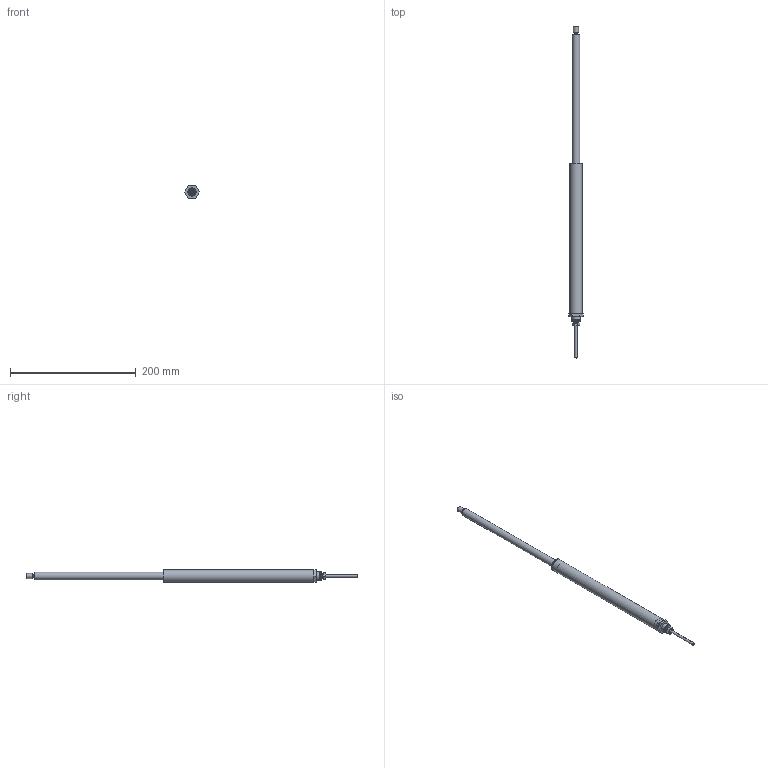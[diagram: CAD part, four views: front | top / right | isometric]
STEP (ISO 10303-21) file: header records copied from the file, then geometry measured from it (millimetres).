
FILE_DESCRIPTION(/* description */ ('Unknown'),/* implementation_level */ '2;1');
FILE_NAME(/* name */ '109.50132 Zylinder CG 1820_ausgefahren',/* time_stamp */ '2018-06-15T15:18:39+02:00',/* author */ ('Unknown'),/* organization */ ('Unknown'),/* preprocessor_version */ 'ST-DEVELOPER v16.7',/* originating_system */ 'DEX',/* authorisation */ $);
FILE_SCHEMA (('AUTOMOTIVE_DESIGN {1 0 10303 214 3 1 1}'));
Length unit declared in the file: millimetre
Products named in the file (9): 109.50132; 121.50002; 142.00021; 125.00021; 115.00008_oa_0; 125.00061; 120.00022; 122.00012; 113.00002_70mm
Assembly tree (8 placements, depth 2):
  109.50132
    121.50002
    142.00021
    125.00021
    115.00008_oa_0
    125.00061
    120.00022
    122.00012
    113.00002_70mm
Bounding box: 23.09 x 528 x 20 mm (x, y, z)
Volume: 47115.6 mm3; surface area: 43529.4 mm2
Topology: 7 solids, 7 shells, 97 faces, 192 edges, 121 vertices
Faces by surface type: plane 38, cylinder 28, cone 24, torus 6, sphere 1
Full cylindrical faces by diameter (mm): 2.2 x1, 3.5 x1, 4 x1, 4.1 x1, 4.2 x1, 6 x1, 6.917 x2, 7.763 x2, 8 x4, 8.1 x3, 12 x2, 12.5 x1, 13 x2, 14.4 x1, 17.9 x2, 18 x2, 20 x1
Entity records: 2920 total; most frequent: DIRECTION 410, CARTESIAN_POINT 383, ORIENTED_EDGE 258, AXIS2_PLACEMENT_3D 187, FACE_BOUND 173, EDGE_LOOP 172, EDGE_CURVE 129, VERTEX_POINT 112
